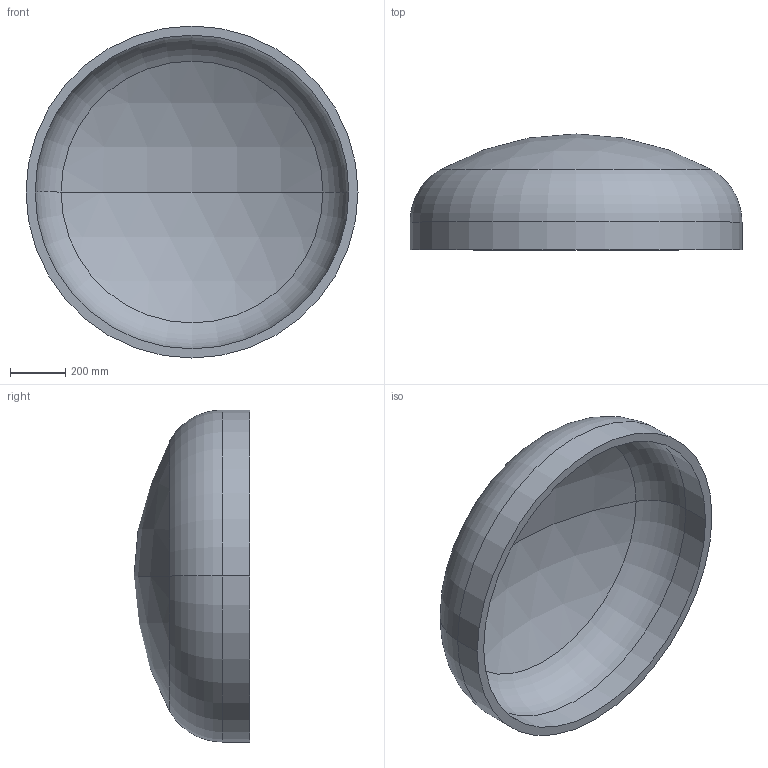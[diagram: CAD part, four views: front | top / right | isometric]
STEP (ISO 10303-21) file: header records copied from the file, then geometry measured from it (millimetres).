
FILE_DESCRIPTION (( 'STEP AP203' ), '1' );
FILE_NAME ('DIN 28013 Korbbogenform_-_Boden DIN 28013 - 1200 x 100 - I - s=33.step', '2016-07-01T09:26:30', ( '' ), ( '' ), 'SwSTEP 2.0', 'SolidWorks 2013', '' );
FILE_SCHEMA (( 'CONFIG_CONTROL_DESIGN' ));
Length unit declared in the file: millimetre
Products named in the file (1): DIN 28013 Korbbogenform_-_Boden DIN 28013 - 1200 x 100 - I - s=33
Bounding box: 1200 x 418.68 x 1200 mm (x, y, z)
Volume: 61972303.3 mm3; surface area: 3879162.8 mm2
Topology: 1 solids, 1 shells, 13 faces, 24 edges, 14 vertices
Faces by surface type: torus 4, cylinder 4, sphere 4, plane 1
Entity records: 407 total; most frequent: DIRECTION 72, CARTESIAN_POINT 52, ORIENTED_EDGE 48, AXIS2_PLACEMENT_3D 34, EDGE_CURVE 24, CIRCLE 20, VERTEX_POINT 14, EDGE_LOOP 14
